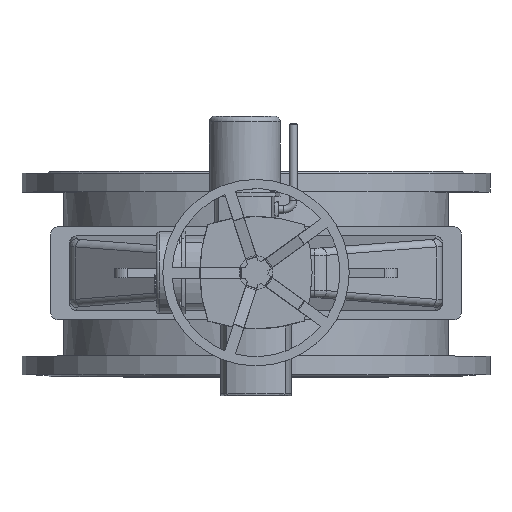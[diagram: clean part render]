
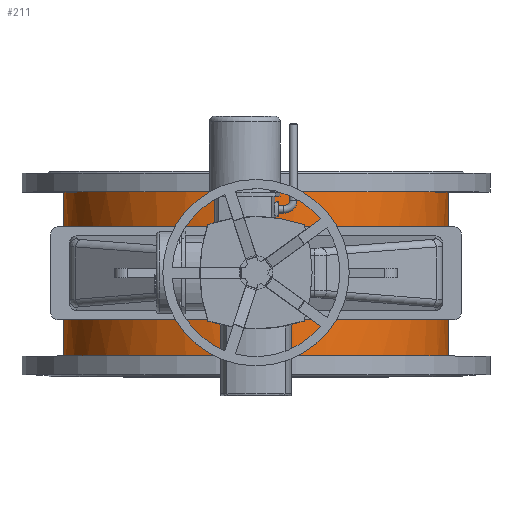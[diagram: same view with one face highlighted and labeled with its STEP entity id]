
A CAD part, top view. The second image highlights one B-rep face of the part: STEP entity #211.
In plain terms, the highlighted cylindrical face has radius 516 mm (diameter 1032 mm), a partial arc.
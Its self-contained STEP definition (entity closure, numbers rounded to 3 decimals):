
#211=ADVANCED_FACE('',(#4028,#4030),#4032,.T.);
#4028=FACE_BOUND('',#4029,.T.);
#4029=EDGE_LOOP('',(#10472,#10473,#10474,#10475,#10476,#10477,#10478,#10479,#10480,
#10481,#10482,#10483));
#4030=FACE_BOUND('',#4031,.T.);
#4031=EDGE_LOOP('',(#10484,#10485,#10486,#10487,#10488,#10489));
#4032=CYLINDRICAL_SURFACE('',#4033,516.);
#4033=AXIS2_PLACEMENT_3D('',#4034,#4035,#4036);
#4034=CARTESIAN_POINT('',(0.,-220.,0.));
#4035=DIRECTION('',(0.,1.,0.));
#4036=DIRECTION('',(0.,0.,1.));
#10472=ORIENTED_EDGE('',*,*,#12263,.F.);
#10473=ORIENTED_EDGE('',*,*,#12258,.F.);
#10474=ORIENTED_EDGE('',*,*,#12264,.F.);
#10475=ORIENTED_EDGE('',*,*,#12265,.F.);
#10476=ORIENTED_EDGE('',*,*,#12266,.F.);
#10477=ORIENTED_EDGE('',*,*,#12267,.F.);
#10478=ORIENTED_EDGE('',*,*,#12268,.F.);
#10479=ORIENTED_EDGE('',*,*,#12269,.F.);
#10480=ORIENTED_EDGE('',*,*,#12202,.F.);
#10481=ORIENTED_EDGE('',*,*,#12262,.F.);
#10482=ORIENTED_EDGE('',*,*,#12270,.F.);
#10483=ORIENTED_EDGE('',*,*,#12271,.T.);
#10484=ORIENTED_EDGE('',*,*,#12272,.T.);
#10485=ORIENTED_EDGE('',*,*,#12273,.F.);
#10486=ORIENTED_EDGE('',*,*,#12274,.F.);
#10487=ORIENTED_EDGE('',*,*,#12275,.F.);
#10488=ORIENTED_EDGE('',*,*,#12276,.F.);
#10489=ORIENTED_EDGE('',*,*,#12277,.F.);
#12202=EDGE_CURVE('',#13114,#13116,#13117,.T.);
#12258=EDGE_CURVE('',#13210,#13212,#13213,.T.);
#12262=EDGE_CURVE('',#13218,#13114,#13220,.T.);
#12263=EDGE_CURVE('',#13212,#13221,#13222,.F.);
#12264=EDGE_CURVE('',#13223,#13210,#13224,.F.);
#12265=EDGE_CURVE('',#13225,#13223,#13226,.F.);
#12266=EDGE_CURVE('',#13227,#13225,#13228,.F.);
#12267=EDGE_CURVE('',#13229,#13227,#13230,.T.);
#12268=EDGE_CURVE('',#13231,#13229,#13232,.T.);
#12269=EDGE_CURVE('',#13116,#13231,#13233,.F.);
#12270=EDGE_CURVE('',#13234,#13218,#13235,.T.);
#12271=EDGE_CURVE('',#13234,#13221,#13236,.T.);
#12272=EDGE_CURVE('',#13237,#13238,#13239,.T.);
#12273=EDGE_CURVE('',#13240,#13238,#13241,.F.);
#12274=EDGE_CURVE('',#13242,#13240,#13243,.F.);
#12275=EDGE_CURVE('',#13244,#13242,#13245,.T.);
#12276=EDGE_CURVE('',#13246,#13244,#13247,.T.);
#12277=EDGE_CURVE('',#13237,#13246,#13248,.T.);
#13114=VERTEX_POINT('',#14683);
#13116=VERTEX_POINT('',#14687);
#13117=LINE('',#14688,#14689);
#13210=VERTEX_POINT('',#14909);
#13212=VERTEX_POINT('',#14913);
#13213=(BOUNDED_CURVE()B_SPLINE_CURVE(3,
(#14914,#14915,#14916,#14917),
.UNSPECIFIED.,.F.,.F.)B_SPLINE_CURVE_WITH_KNOTS((4,4),
(0.,1.),
.UNSPECIFIED.)CURVE()GEOMETRIC_REPRESENTATION_ITEM()RATIONAL_B_SPLINE_CURVE((1.,
0.865,0.865,1.))REPRESENTATION_ITEM(''));
#13218=VERTEX_POINT('',#14926);
#13220=(BOUNDED_CURVE()B_SPLINE_CURVE(3,
(#14930,#14931,#14932,#14933),
.UNSPECIFIED.,.F.,.F.)B_SPLINE_CURVE_WITH_KNOTS((4,4),
(0.,1.),
.UNSPECIFIED.)CURVE()GEOMETRIC_REPRESENTATION_ITEM()RATIONAL_B_SPLINE_CURVE((1.,
0.865,0.865,1.))REPRESENTATION_ITEM(''));
#13221=VERTEX_POINT('',#14934);
#13222=LINE('',#14935,#14936);
#13223=VERTEX_POINT('',#14938);
#13224=LINE('',#14939,#14940);
#13225=VERTEX_POINT('',#14942);
#13226=(BOUNDED_CURVE()B_SPLINE_CURVE(3,
(#14943,#14944,#14945,#14946),
.UNSPECIFIED.,.F.,.F.)B_SPLINE_CURVE_WITH_KNOTS((4,4),
(0.,1.),
.UNSPECIFIED.)CURVE()GEOMETRIC_REPRESENTATION_ITEM()RATIONAL_B_SPLINE_CURVE((1.,
0.865,0.865,1.))REPRESENTATION_ITEM(''));
#13227=VERTEX_POINT('',#14947);
#13228=LINE('',#14948,#14949);
#13229=VERTEX_POINT('',#14951);
#13230=CIRCLE('',#14952,516.);
#13231=VERTEX_POINT('',#14956);
#13232=LINE('',#14957,#14958);
#13233=(BOUNDED_CURVE()B_SPLINE_CURVE(3,
(#14960,#14961,#14962,#14963),
.UNSPECIFIED.,.F.,.F.)B_SPLINE_CURVE_WITH_KNOTS((4,4),
(0.,1.),
.UNSPECIFIED.)CURVE()GEOMETRIC_REPRESENTATION_ITEM()RATIONAL_B_SPLINE_CURVE((1.,
0.865,0.865,1.))REPRESENTATION_ITEM(''));
#13234=VERTEX_POINT('',#14964);
#13235=LINE('',#14965,#14966);
#13236=CIRCLE('',#14968,516.);
#13237=VERTEX_POINT('',#14972);
#13238=VERTEX_POINT('',#14973);
#13239=LINE('',#14974,#14975);
#13240=VERTEX_POINT('',#14977);
#13241=(BOUNDED_CURVE()B_SPLINE_CURVE(3,
(#14978,#14979,#14980,#14981),
.UNSPECIFIED.,.F.,.F.)B_SPLINE_CURVE_WITH_KNOTS((4,4),
(0.,1.),
.UNSPECIFIED.)CURVE()GEOMETRIC_REPRESENTATION_ITEM()RATIONAL_B_SPLINE_CURVE((1.,
0.86,0.86,1.))REPRESENTATION_ITEM(''));
#13242=VERTEX_POINT('',#14982);
#13243=(BOUNDED_CURVE()B_SPLINE_CURVE(3,
(#14983,#14984,#14985,#14986),
.UNSPECIFIED.,.F.,.F.)B_SPLINE_CURVE_WITH_KNOTS((4,4),
(0.,1.),
.UNSPECIFIED.)CURVE()GEOMETRIC_REPRESENTATION_ITEM()RATIONAL_B_SPLINE_CURVE((1.,
0.86,0.86,1.))REPRESENTATION_ITEM(''));
#13244=VERTEX_POINT('',#14987);
#13245=LINE('',#14988,#14989);
#13246=VERTEX_POINT('',#14991);
#13247=(BOUNDED_CURVE()B_SPLINE_CURVE(3,
(#14992,#14993,#14994,#14995),
.UNSPECIFIED.,.F.,.F.)B_SPLINE_CURVE_WITH_KNOTS((4,4),
(0.,1.),
.UNSPECIFIED.)CURVE()GEOMETRIC_REPRESENTATION_ITEM()RATIONAL_B_SPLINE_CURVE((1.,
0.86,0.86,1.))REPRESENTATION_ITEM(''));
#13248=(BOUNDED_CURVE()B_SPLINE_CURVE(3,
(#14996,#14997,#14998,#14999),
.UNSPECIFIED.,.F.,.F.)B_SPLINE_CURVE_WITH_KNOTS((4,4),
(0.,1.),
.UNSPECIFIED.)CURVE()GEOMETRIC_REPRESENTATION_ITEM()RATIONAL_B_SPLINE_CURVE((1.,
0.86,0.86,1.))REPRESENTATION_ITEM(''));
#14683=CARTESIAN_POINT('',(500.,-83.31,127.499));
#14687=CARTESIAN_POINT('',(500.,83.31,127.499));
#14688=CARTESIAN_POINT('',(500.,-83.31,127.499));
#14689=VECTOR('',#14690,1.);
#14690=DIRECTION('',(0.,1.,0.));
#14909=CARTESIAN_POINT('',(-500.,-83.31,127.499));
#14913=CARTESIAN_POINT('',(-14.,-88.324,515.81));
#14914=CARTESIAN_POINT('',(-500.,-83.31,127.499));
#14915=CARTESIAN_POINT('',(-440.785,-86.308,359.716));
#14916=CARTESIAN_POINT('',(-253.56,-88.24,509.308));
#14917=CARTESIAN_POINT('',(-14.,-88.324,515.81));
#14926=CARTESIAN_POINT('',(14.,-88.324,515.81));
#14930=CARTESIAN_POINT('',(14.,-88.324,515.81));
#14931=CARTESIAN_POINT('',(253.56,-88.24,509.308));
#14932=CARTESIAN_POINT('',(440.785,-86.308,359.716));
#14933=CARTESIAN_POINT('',(500.,-83.31,127.499));
#14934=CARTESIAN_POINT('',(-14.,-220.,515.81));
#14935=CARTESIAN_POINT('',(-14.,-220.,515.81));
#14936=VECTOR('',#14937,1.);
#14937=DIRECTION('',(0.,1.,0.));
#14938=CARTESIAN_POINT('',(-500.,83.31,127.499));
#14939=CARTESIAN_POINT('',(-500.,-83.31,127.499));
#14940=VECTOR('',#14941,1.);
#14941=DIRECTION('',(0.,1.,0.));
#14942=CARTESIAN_POINT('',(-14.,88.324,515.81));
#14943=CARTESIAN_POINT('',(-500.,83.31,127.499));
#14944=CARTESIAN_POINT('',(-440.785,86.308,359.716));
#14945=CARTESIAN_POINT('',(-253.56,88.24,509.308));
#14946=CARTESIAN_POINT('',(-14.,88.324,515.81));
#14947=CARTESIAN_POINT('',(-14.,220.,515.81));
#14948=CARTESIAN_POINT('',(-14.,88.324,515.81));
#14949=VECTOR('',#14950,1.);
#14950=DIRECTION('',(0.,1.,0.));
#14951=CARTESIAN_POINT('',(14.,220.,515.81));
#14952=AXIS2_PLACEMENT_3D('',#14953,#14954,#14955);
#14953=CARTESIAN_POINT('',(0.,220.,0.));
#14954=DIRECTION('',(0.,1.,0.));
#14955=DIRECTION('',(0.027,0.,1.));
#14956=CARTESIAN_POINT('',(14.,88.324,515.81));
#14957=CARTESIAN_POINT('',(14.,88.324,515.81));
#14958=VECTOR('',#14959,1.);
#14959=DIRECTION('',(0.,1.,0.));
#14960=CARTESIAN_POINT('',(14.,88.324,515.81));
#14961=CARTESIAN_POINT('',(253.56,88.24,509.308));
#14962=CARTESIAN_POINT('',(440.785,86.308,359.716));
#14963=CARTESIAN_POINT('',(500.,83.31,127.499));
#14964=CARTESIAN_POINT('',(14.,-220.,515.81));
#14965=CARTESIAN_POINT('',(14.,-220.,515.81));
#14966=VECTOR('',#14967,1.);
#14967=DIRECTION('',(0.,1.,0.));
#14968=AXIS2_PLACEMENT_3D('',#14969,#14970,#14971);
#14969=CARTESIAN_POINT('',(0.,-220.,0.));
#14970=DIRECTION('',(0.,1.,0.));
#14971=DIRECTION('',(0.027,0.,1.));
#14972=CARTESIAN_POINT('',(500.,-80.017,-127.499));
#14973=CARTESIAN_POINT('',(500.,80.017,-127.499));
#14974=CARTESIAN_POINT('',(500.,-80.017,-127.499));
#14975=VECTOR('',#14976,1.);
#14976=DIRECTION('',(0.,1.,0.));
#14977=CARTESIAN_POINT('',(0.,75.,-516.));
#14978=CARTESIAN_POINT('',(500.,80.017,-127.499));
#14979=CARTESIAN_POINT('',(439.342,76.945,-365.377));
#14980=CARTESIAN_POINT('',(245.49,75.,-516.));
#14981=CARTESIAN_POINT('',(0.,75.,-516.));
#14982=CARTESIAN_POINT('',(-500.,80.017,-127.499));
#14983=CARTESIAN_POINT('',(0.,75.,-516.));
#14984=CARTESIAN_POINT('',(-245.49,75.,-516.));
#14985=CARTESIAN_POINT('',(-439.342,76.945,-365.377));
#14986=CARTESIAN_POINT('',(-500.,80.017,-127.499));
#14987=CARTESIAN_POINT('',(-500.,-80.017,-127.499));
#14988=CARTESIAN_POINT('',(-500.,-80.017,-127.499));
#14989=VECTOR('',#14990,1.);
#14990=DIRECTION('',(0.,1.,0.));
#14991=CARTESIAN_POINT('',(0.,-75.,-516.));
#14992=CARTESIAN_POINT('',(0.,-75.,-516.));
#14993=CARTESIAN_POINT('',(-245.49,-75.,-516.));
#14994=CARTESIAN_POINT('',(-439.342,-76.945,-365.377));
#14995=CARTESIAN_POINT('',(-500.,-80.017,-127.499));
#14996=CARTESIAN_POINT('',(500.,-80.017,-127.499));
#14997=CARTESIAN_POINT('',(439.342,-76.945,-365.377));
#14998=CARTESIAN_POINT('',(245.49,-75.,-516.));
#14999=CARTESIAN_POINT('',(0.,-75.,-516.));
